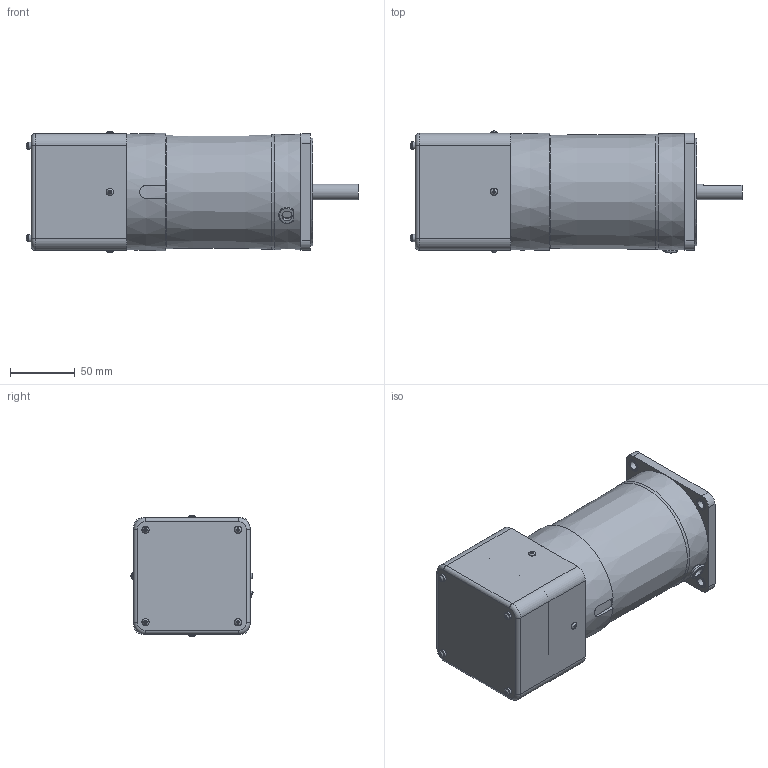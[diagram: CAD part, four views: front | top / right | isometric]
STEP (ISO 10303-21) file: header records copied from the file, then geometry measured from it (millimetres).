
FILE_DESCRIPTION((''),'2;1');
FILE_NAME('D:\STP파일\90W MOTOR\ES TYPE\S9I90D-ES.stp','2013-05-20T18:20:57',('leebh'),(''),'Autodesk Inventor 2011','Autodesk Inventor 2011','');
FILE_SCHEMA(('AUTOMOTIVE_DESIGN { 1 0 10303 214 1 1 1 1 }'));
Length unit declared in the file: millimetre
Products named in the file (1): 부품1
Bounding box: 256.25 x 94.19 x 93.89 mm (x, y, z)
Volume: 1221175.8 mm3; surface area: 117526.6 mm2
Topology: 1 solids, 7 shells, 293 faces, 709 edges, 456 vertices
Faces by surface type: plane 179, cylinder 72, torus 26, cone 8, bspline 8
Full cylindrical faces by diameter (mm): 3 x8, 4.5 x4, 5.6 x12, 6.5 x4, 8 x1, 9.5 x4, 10 x1, 12 x1, 40 x1, 83 x1, 86 x1
Entity records: 8908 total; most frequent: CARTESIAN_POINT 2310, DIRECTION 1264, ORIENTED_EDGE 1242, EDGE_CURVE 621, AXIS2_PLACEMENT_3D 465, VERTEX_POINT 440, EDGE_LOOP 411, VECTOR 334
